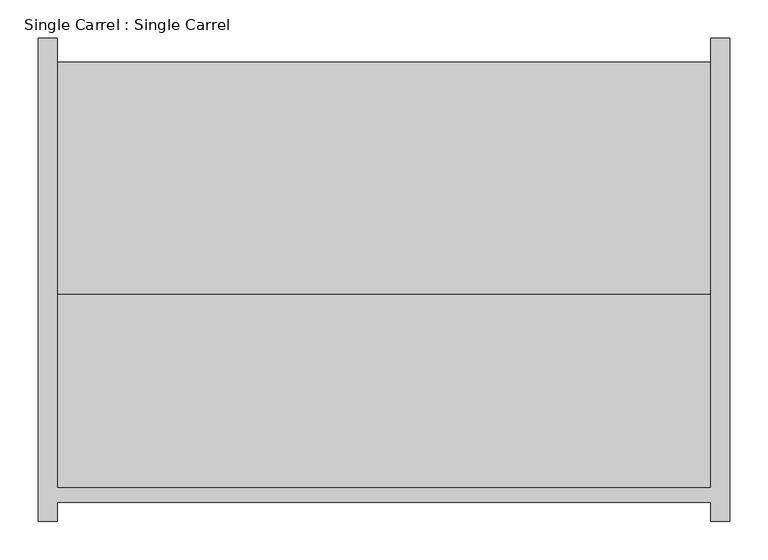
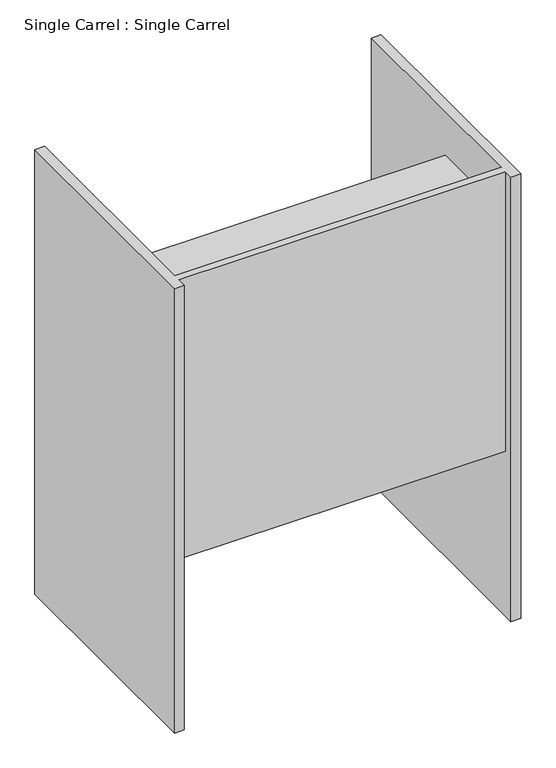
"""IFC4 building model written with IfcOpenShell, lengths in millimetres: proxy geometry, Single Carrel : Single Carrel."""

from ifc_helpers import new_model, si_unit, frame, origin, place, context, project, spatial, polyline, outline, extrude, faceted_brep, source, transform, mapped, element, save


def single_carrel_single_carrel_0b646c7b(model_context):
    return source(origin(), model_context, "Body", "SolidModel", [
        extrude(outline(polyline([(428.625, 19.05), (-428.625, 19.05), (-428.625, 273.05), (428.625, 273.05), (428.625, 19.05)])), frame((0.0, 0.0, 1092.2), z_axis=(0.0, 0.0, 1.0), x_axis=(1.0, 0.0, 0.0)), (0.0, 0.0, 1.0), 19.05),
        extrude(outline(polyline([(428.625, 19.05), (-428.625, 19.05), (-428.625, 577.85), (428.625, 577.85), (428.625, 19.05)])), frame((0.0, 0.0, 660.4), z_axis=(0.0, 0.0, 1.0), x_axis=(1.0, 0.0, 0.0)), (0.0, 0.0, 1.0), 38.1),
        faceted_brep([(428.625, 0.0, 1231.9), (428.625, -25.4, 1231.9), (454.025, -25.4, 1231.9), (454.025, 609.6, 1231.9), (428.625, 609.6, 1231.9), (428.625, 19.05, 1231.9), (-428.625, 19.05, 1231.9), (-428.625, 609.6, 1231.9), (-454.025, 609.6, 1231.9), (-454.025, -25.4, 1231.9), (-428.625, -25.4, 1231.9), (-428.625, 0.0, 1231.9), (428.625, 609.6, 0.0), (454.025, 609.6, 0.0), (454.025, -25.4, 0.0), (428.625, -25.4, 0.0), (-428.625, -25.4, 0.0), (-454.025, -25.4, 0.0), (-454.025, 609.6, 0.0), (-428.625, 609.6, 0.0), (-428.625, 0.0, 457.2), (428.625, 0.0, 457.2), (-428.625, 19.05, 457.2), (428.625, 19.05, 457.2)], [[[0, 1, 2, 3, 4, 5, 6, 7, 8, 9, 10, 11]], [[12, 13, 14, 15]], [[16, 17, 18, 19]], [[11, 20, 21, 0]], [[10, 16, 19, 7, 6, 22, 20, 11]], [[9, 17, 16, 10]], [[8, 18, 17, 9]], [[7, 19, 18, 8]], [[5, 23, 22, 6]], [[4, 12, 15, 1, 0, 21, 23, 5]], [[3, 13, 12, 4]], [[2, 14, 13, 3]], [[15, 14, 2, 1]], [[22, 23, 21, 20]]]),
    ])


if __name__ == "__main__":
    model = new_model("IFC4")
    model_context = context("Model", 3, world=origin())
    ifc_project = project(units=[si_unit("LENGTHUNIT", "METRE", prefix="MILLI")], contexts=[model_context])
    site = spatial("IfcSite", under=ifc_project)
    building = spatial("IfcBuilding", under=site)
    placement = place(None, origin())
    single_carrel_single_carrel_shape = single_carrel_single_carrel_0b646c7b(model_context)
    element("IfcBuildingElementProxy", 1, Name="Single Carrel : Single Carrel", ObjectType="Single Carrel : Single Carrel", at=placement, inside=building, context=model_context, shape_type="MappedRepresentation", body=[
        mapped(single_carrel_single_carrel_shape, transform((0.0, 0.0, 0.0), x_axis=(1.0, 0.0, 0.0), y_axis=(0.0, 1.0, 0.0), z_axis=(0.0, 0.0, 1.0))),
    ])
    save(model, "model.ifc")
